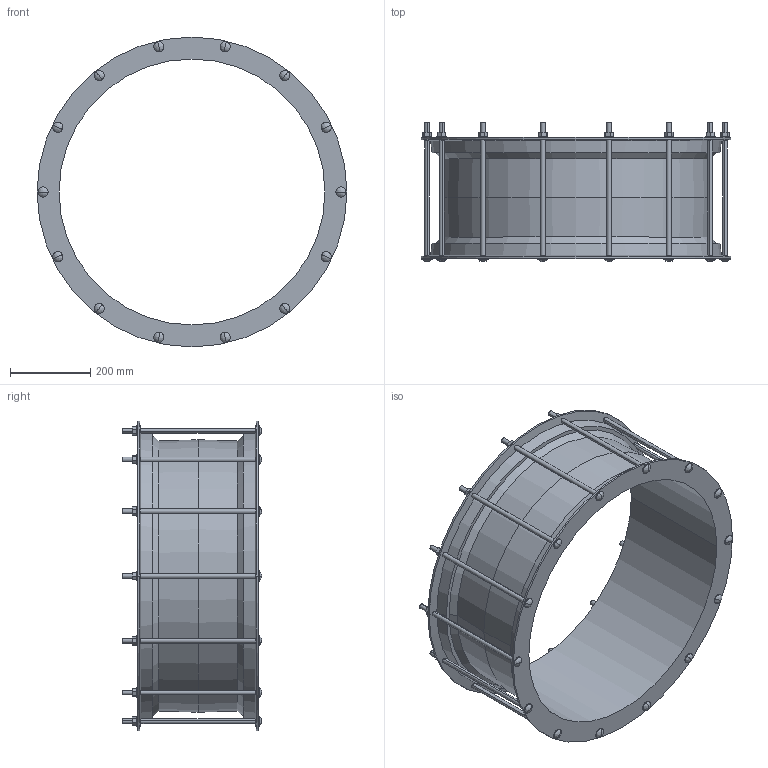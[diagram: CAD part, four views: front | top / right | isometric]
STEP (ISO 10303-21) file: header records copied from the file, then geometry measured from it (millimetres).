
FILE_DESCRIPTION((''),'2;1');
FILE_NAME('MAXIFIT_645_662','2018-12-18T',('mfairey'),('Glynwed Pipe Systems'),'CREO PARAMETRIC BY PTC INC, 2016130','CREO PARAMETRIC BY PTC INC, 2016130','');
FILE_SCHEMA(('CONFIG_CONTROL_DESIGN'));
Length unit declared in the file: millimetre
Products named in the file (1): MAXIFIT_645_662
Bounding box: 774 x 348 x 774 mm (x, y, z)
Volume: 9709269.5 mm3; surface area: 1876630.3 mm2
Topology: 1 solids, 1 shells, 292 faces, 708 edges, 444 vertices
Faces by surface type: plane 130, cylinder 118, bspline 28, cone 16
Entity records: 10538 total; most frequent: CARTESIAN_POINT 3770, DIRECTION 1370, ORIENTED_EDGE 1360, EDGE_CURVE 680, AXIS2_PLACEMENT_3D 490, VERTEX_POINT 444, VECTOR 390, LINE 390
